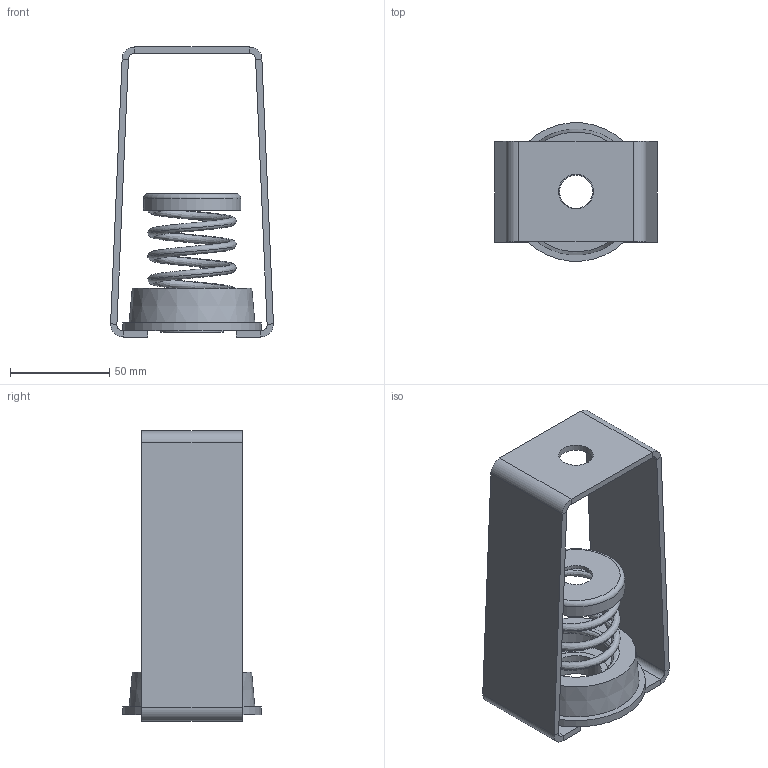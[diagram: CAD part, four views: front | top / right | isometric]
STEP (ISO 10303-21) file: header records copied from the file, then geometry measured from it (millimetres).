
FILE_DESCRIPTION(/* description */ (''),/* implementation_level */ '2;1');
FILE_NAME(/* name */ 'C:\001_Work\Designs\HANGER BOXES\30, HS\30-A, HS-A\30-A-95.stp',/* time_stamp */ '2016-04-01T09:41:27-04:00',/* author */ ('rramoutar'),/* organization */ ('Mason Industries Inc.'),/* preprocessor_version */ 'ST-DEVELOPER v15.6',/* originating_system */ 'Autodesk Inventor 2015',/* authorisation */ '');
FILE_SCHEMA (('CONFIG_CONTROL_DESIGN'));
Length unit declared in the file: inch
Products named in the file (1): 30-A-95
Bounding box: 81.97 x 69.62 x 146.05 mm (x, y, z)
Volume: 116330.2 mm3; surface area: 83572 mm2
Topology: 6 solids, 6 shells, 97 faces, 207 edges, 127 vertices
Faces by surface type: plane 49, cylinder 23, bspline 22, torus 2, cone 1
Full cylindrical faces by diameter (mm): 16.669 x1, 17.462 x1, 25.4 x1, 31.75 x4, 43.656 x1, 45.263 x1, 49.058 x1, 53.975 x2, 69.85 x1
Entity records: 10214 total; most frequent: CARTESIAN_POINT 8133, ORIENTED_EDGE 380, DIRECTION 346, EDGE_CURVE 190, EDGE_LOOP 130, AXIS2_PLACEMENT_3D 128, VERTEX_POINT 126, STYLED_ITEM 103
